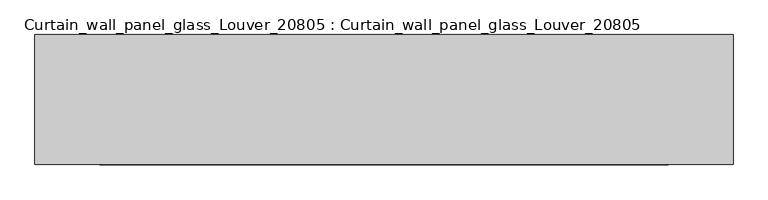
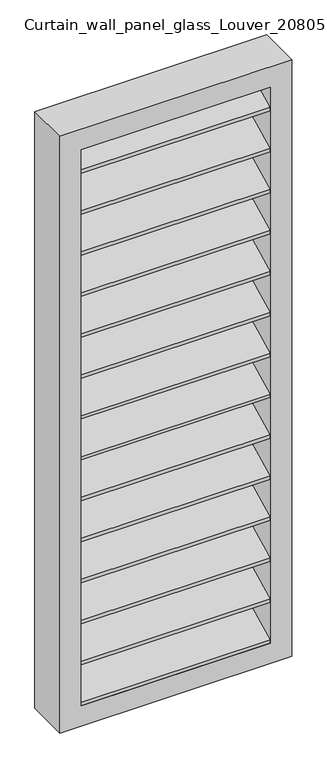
"""IFC4 building model written with IfcOpenShell, lengths in millimetres: plate geometry, Curtain_wall_panel_glass_Louver_20805 : Curtain_wall_panel_glass_Louver_20805."""

from ifc_helpers import new_model, si_unit, frame, origin, place, context, project, spatial, polyline, outline, extrude, source, transform, mapped, element, save


def curtain_wall_panel_glass_louver_20805_curtain_wall_panel_3228bad0(model_context):
    return source(origin(), model_context, "Body", "SweptSolid", [
        extrude(outline(polyline([(200.0, 199.3849981), (0.0, 100.0), (0.0, 116.7499328), (200.0, 216.1349309), (200.0, 199.3849981)])), frame((-437.5000001, 0.0, 0.0), z_axis=(1.0, 0.0, 0.0), x_axis=(0.0, 1.0, 0.0)), (0.0, 0.0, 1.0), 875.0000001),
        extrude(outline(polyline([(200.0, 2808.2500672), (0.0, 2708.8650691), (0.0, 2725.6150019), (200.0, 2825.0), (200.0, 2808.2500672)])), frame((-437.5000001, 0.0, 0.0), z_axis=(1.0, 0.0, 0.0), x_axis=(0.0, 1.0, 0.0)), (0.0, 0.0, 1.0), 875.0000001),
        extrude(outline(polyline([(200.0, 400.0669265), (0.0, 300.6819284), (0.0, 317.4318612), (200.0, 416.8168593), (200.0, 400.0669265)])), frame((-437.5000001, 0.0, 0.0), z_axis=(1.0, 0.0, 0.0), x_axis=(0.0, 1.0, 0.0)), (0.0, 0.0, 1.0), 875.0000001),
        extrude(outline(polyline([(200.0, 600.7488549), (0.0, 501.3638568), (0.0, 518.1137896), (200.0, 617.4987877), (200.0, 600.7488549)])), frame((-437.5000001, 0.0, 0.0), z_axis=(1.0, 0.0, 0.0), x_axis=(0.0, 1.0, 0.0)), (0.0, 0.0, 1.0), 875.0000001),
        extrude(outline(polyline([(200.0, 801.4307833), (0.0, 702.0457852), (0.0, 718.795718), (200.0, 818.1807161), (200.0, 801.4307833)])), frame((-437.5000001, 0.0, 0.0), z_axis=(1.0, 0.0, 0.0), x_axis=(0.0, 1.0, 0.0)), (0.0, 0.0, 1.0), 875.0000001),
        extrude(outline(polyline([(200.0, 1002.1127117), (0.0, 902.7277136), (0.0, 919.4776464), (200.0, 1018.8626445), (200.0, 1002.1127117)])), frame((-437.5000001, 0.0, 0.0), z_axis=(1.0, 0.0, 0.0), x_axis=(0.0, 1.0, 0.0)), (0.0, 0.0, 1.0), 875.0000001),
        extrude(outline(polyline([(200.0, 1202.79464), (0.0, 1103.4096419), (0.0, 1120.1595748), (200.0, 1219.5445729), (200.0, 1202.79464)])), frame((-437.5000001, 0.0, 0.0), z_axis=(1.0, 0.0, 0.0), x_axis=(0.0, 1.0, 0.0)), (0.0, 0.0, 1.0), 875.0000001),
        extrude(outline(polyline([(200.0, 1403.4765684), (0.0, 1304.0915703), (0.0, 1320.8415032), (200.0, 1420.2265013), (200.0, 1403.4765684)])), frame((-437.5000001, 0.0, 0.0), z_axis=(1.0, 0.0, 0.0), x_axis=(0.0, 1.0, 0.0)), (0.0, 0.0, 1.0), 875.0000001),
        extrude(outline(polyline([(200.0, 1604.1584968), (0.0, 1504.7734987), (0.0, 1521.5234316), (200.0, 1620.9084297), (200.0, 1604.1584968)])), frame((-437.5000001, 0.0, 0.0), z_axis=(1.0, 0.0, 0.0), x_axis=(0.0, 1.0, 0.0)), (0.0, 0.0, 1.0), 875.0000001),
        extrude(outline(polyline([(200.0, 1804.8404252), (0.0, 1705.4554271), (0.0, 1722.20536), (200.0, 1821.5903581), (200.0, 1804.8404252)])), frame((-437.5000001, 0.0, 0.0), z_axis=(1.0, 0.0, 0.0), x_axis=(0.0, 1.0, 0.0)), (0.0, 0.0, 1.0), 875.0000001),
        extrude(outline(polyline([(200.0, 2005.5223536), (0.0, 1906.1373555), (0.0, 1922.8872883), (200.0, 2022.2722864), (200.0, 2005.5223536)])), frame((-437.5000001, 0.0, 0.0), z_axis=(1.0, 0.0, 0.0), x_axis=(0.0, 1.0, 0.0)), (0.0, 0.0, 1.0), 875.0000001),
        extrude(outline(polyline([(200.0, 2206.204282), (0.0, 2106.8192839), (0.0, 2123.5692167), (200.0, 2222.9542148), (200.0, 2206.204282)])), frame((-437.5000001, 0.0, 0.0), z_axis=(1.0, 0.0, 0.0), x_axis=(0.0, 1.0, 0.0)), (0.0, 0.0, 1.0), 875.0000001),
        extrude(outline(polyline([(200.0, 2406.8862104), (0.0, 2307.5012123), (0.0, 2324.2511451), (200.0, 2423.6361432), (200.0, 2406.8862104)])), frame((-437.5000001, 0.0, 0.0), z_axis=(1.0, 0.0, 0.0), x_axis=(0.0, 1.0, 0.0)), (0.0, 0.0, 1.0), 875.0000001),
        extrude(outline(polyline([(200.0, 2607.5681388), (0.0, 2508.1831407), (0.0, 2524.9330735), (200.0, 2624.3180716), (200.0, 2607.5681388)])), frame((-437.5000001, 0.0, 0.0), z_axis=(1.0, 0.0, 0.0), x_axis=(0.0, 1.0, 0.0)), (0.0, 0.0, 1.0), 875.0000001),
        extrude(outline(polyline([(2925.0, -537.5000001), (0.0, -537.5000001), (0.0, 537.5000001), (2925.0, 537.5000001), (2925.0, -537.5000001)]), holes=[polyline([(2825.0, -437.5000001), (2825.0, 437.5000001), (100.0, 437.5000001), (100.0, -437.5000001), (2825.0, -437.5000001)])]), frame((0.0, 0.0, 0.0), z_axis=(0.0, 1.0, 0.0), x_axis=(0.0, 0.0, 1.0)), (0.0, 0.0, 1.0), 200.0),
    ])


if __name__ == "__main__":
    model = new_model("IFC4")
    model_context = context("Model", 3, world=origin())
    ifc_project = project(units=[si_unit("LENGTHUNIT", "METRE", prefix="MILLI")], contexts=[model_context])
    site = spatial("IfcSite", under=ifc_project)
    building = spatial("IfcBuilding", under=site)
    placement = place(None, origin())
    curtain_wall_panel_glass_louver_20805_curtain_wall_panel_shape = curtain_wall_panel_glass_louver_20805_curtain_wall_panel_3228bad0(model_context)
    element("IfcPlate", 1, ObjectType="Curtain_wall_panel_glass_Louver_20805 : Curtain_wall_panel_glass_Louver_20805", at=placement, inside=building, context=model_context, shape_type="MappedRepresentation", body=[
        mapped(curtain_wall_panel_glass_louver_20805_curtain_wall_panel_shape, transform((0.0, 0.0, 0.0), x_axis=(1.0, 0.0, 0.0), y_axis=(0.0, 1.0, 0.0), z_axis=(0.0, 0.0, 1.0))),
    ])
    save(model, "model.ifc")
